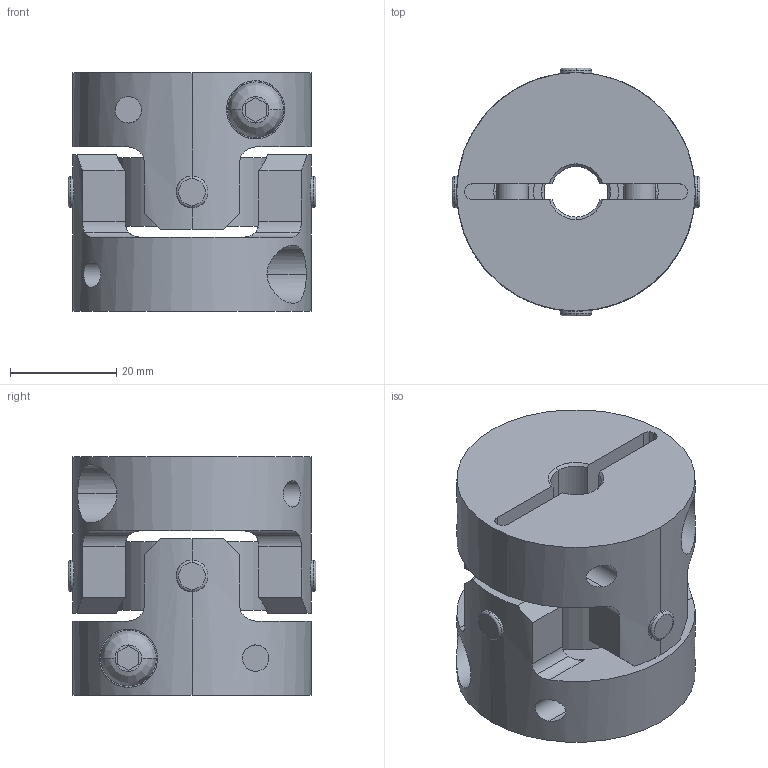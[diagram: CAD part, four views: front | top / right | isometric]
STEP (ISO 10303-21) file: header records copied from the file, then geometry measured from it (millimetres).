
FILE_DESCRIPTION((''),'2;1');
FILE_NAME('UA-45C-9.525×12.stp','2013-11-19T08:46:47',(''),(''),'AutoCAD STEP 2000i','AutoCAD 2000i',', , ');
FILE_SCHEMA(('CONFIG_CONTROL_DESIGN'));
Length unit declared in the file: millimetre
Products named in the file (6): UA-45C-8×8; 忣兜1; UA-4502-D08-1; BTN-M6; UA-4502-D08; UA45-SEN
Assembly tree (6 placements, depth 3):
  UA-45C-8×8
    忣兜1
    UA-4502-D08-1
      BTN-M6
    UA-4502-D08
      BTN-M6
    UA45-SEN
Bounding box: 46.73 x 46.73 x 45 mm (x, y, z)
Volume: 50754.5 mm3; surface area: 20300.6 mm2
Topology: 1 solids, 1 shells, 206 faces, 554 edges, 364 vertices
Faces by surface type: cylinder 96, plane 78, cone 16, bspline 8, torus 8
Entity records: 8523 total; most frequent: CARTESIAN_POINT 3207, ORIENTED_EDGE 1108, DIRECTION 1064, EDGE_CURVE 554, AXIS2_PLACEMENT_3D 409, VERTEX_POINT 364, VECTOR 246, LINE 246
